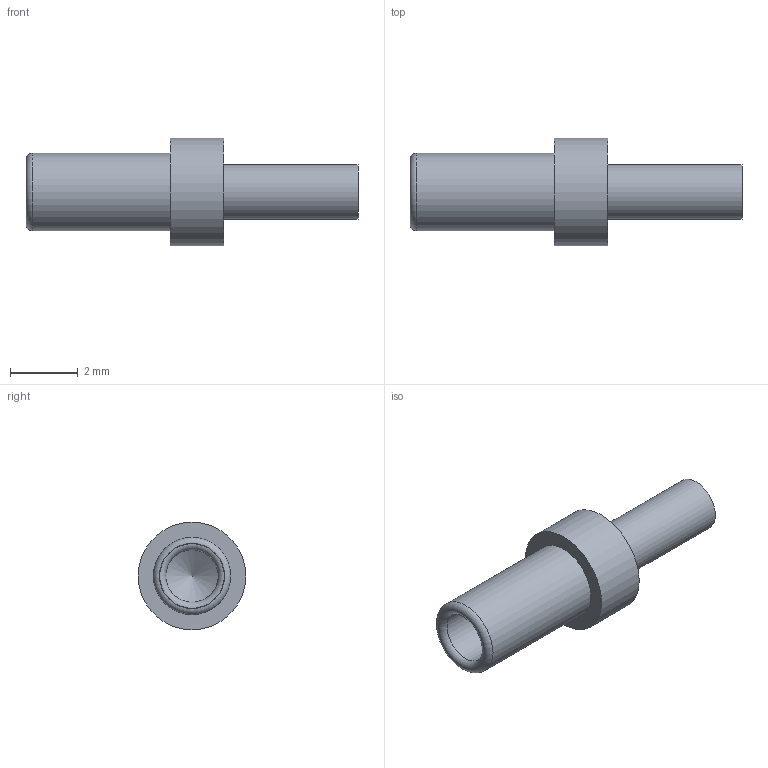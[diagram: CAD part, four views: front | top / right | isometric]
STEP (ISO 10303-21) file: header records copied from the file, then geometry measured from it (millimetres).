
FILE_DESCRIPTION(/* description */ (''),/* implementation_level */ '2;1');
FILE_NAME(/* name */ '\\Snap1\dwgs\Customer 3D Models\450\450-3756-04 Customer model.stp',/* time_stamp */ '2016-12-20T17:24:29+00:00',/* author */ ('paulk'),/* organization */ (''),/* preprocessor_version */ 'ST-DEVELOPER v15.2',/* originating_system */ 'Autodesk Inventor 2014',/* authorisation */ '');
FILE_SCHEMA (('CONFIG_CONTROL_DESIGN'));
Length unit declared in the file: millimetre
Products named in the file (1): 450-3756-04 Customer model
Bounding box: 9.8 x 3.17 x 3.17 mm (x, y, z)
Volume: 27.3 mm3; surface area: 110.2 mm2
Topology: 1 solids, 1 shells, 13 faces, 23 edges, 14 vertices
Faces by surface type: cylinder 5, plane 4, torus 2, cone 2
Full cylindrical faces by diameter (mm): 1.092 x1, 1.55 x1, 1.62 x1, 2.286 x1, 3.175 x1
Entity records: 275 total; most frequent: DIRECTION 52, CARTESIAN_POINT 38, AXIS2_PLACEMENT_3D 26, EDGE_LOOP 24, ORIENTED_EDGE 24, FACE_BOUND 13, ADVANCED_FACE 13, CIRCLE 12
